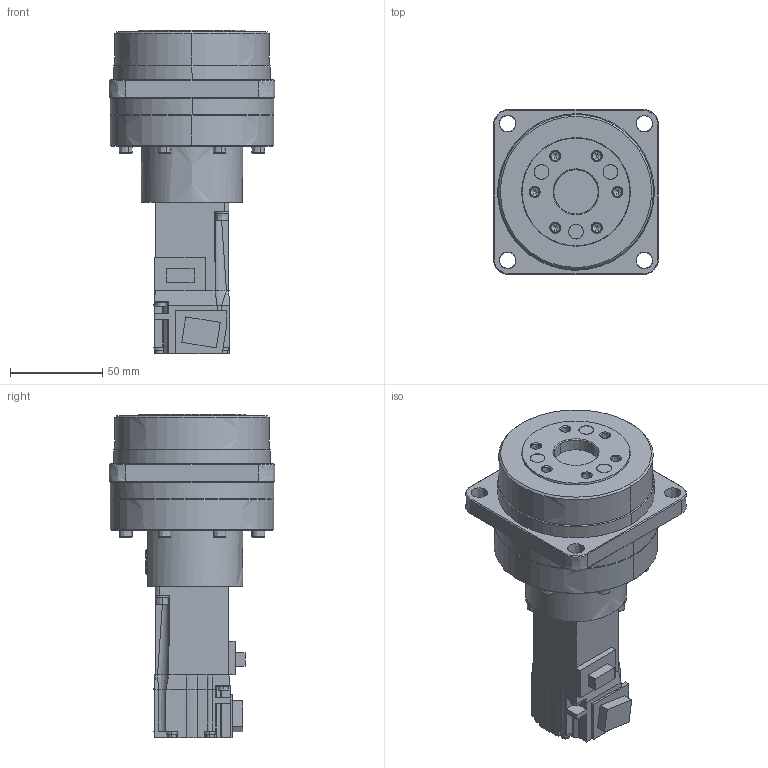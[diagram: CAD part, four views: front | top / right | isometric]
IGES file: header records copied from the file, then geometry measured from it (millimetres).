
Start section:  PTC IGES file: hg-kr13g5_3345.igs
Global section: file name: hg-kr13g5_3345.igs; native system: Creo Parametric by PTC Inc.; preprocessor: 2016380; author: ZW54989; organization: Unknown; date: 20180314.103547; units: millimetre
Bounding box: 90 x 90 x 175.9 mm (x, y, z)
Volume: 583963.4 mm3; surface area: 56651.8 mm2
Topology: 1 solids, 1 shells, 400 faces, 948 edges, 585 vertices
Faces by surface type: bspline 400
